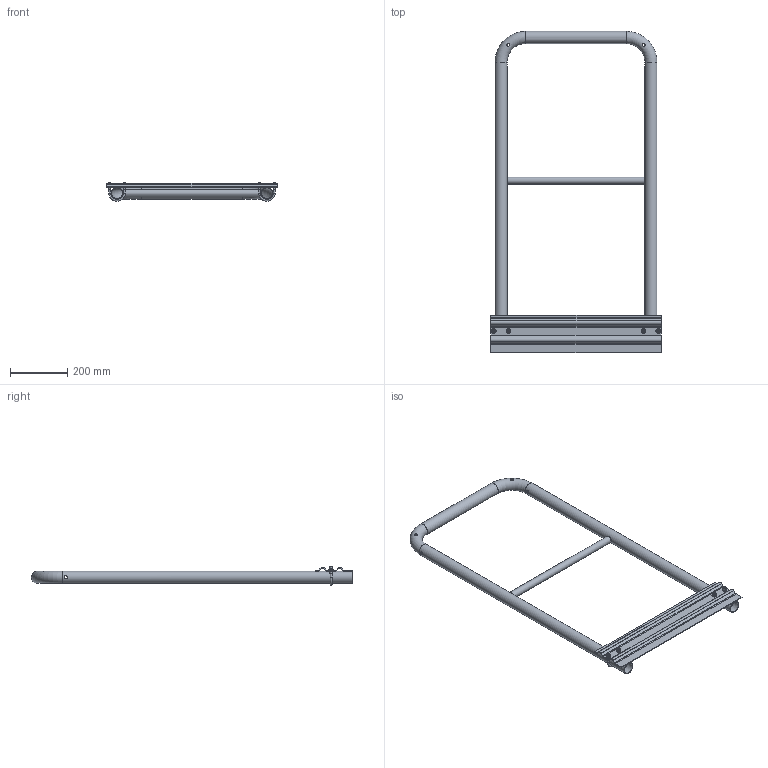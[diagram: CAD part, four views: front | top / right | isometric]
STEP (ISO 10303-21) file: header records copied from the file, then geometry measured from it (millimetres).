
FILE_DESCRIPTION((''),'2;1');
FILE_NAME('S:\Användarkataloger\AndreasA\Mina Inventor filer\Räcken\STEP\modul_ind_slist_600-1100.stp','2010-09-07T13:21:14',('AndreasA'),(''),'Autodesk Inventor 2011','Autodesk Inventor 2011','');
FILE_SCHEMA(('AUTOMOTIVE_DESIGN { 1 0 10303 214 1 1 1 1 }'));
Length unit declared in the file: millimetre
Products named in the file (9): modul_ind_slist_600-1100; modul_ind_600-1100; handledare_modul_600-1100; mellanliggare_modul_600; sparklist_k130_modul_600; bygelskruv_U42_kpl; bygelskruv_U42; SS 3576 8; ISO 4032 M8
Assembly tree (11 placements, depth 3):
  modul_ind_slist_600-1100
    modul_ind_600-1100
      handledare_modul_600-1100
      mellanliggare_modul_600
    sparklist_k130_modul_600
    bygelskruv_U42_kpl  x2
      bygelskruv_U42
      SS 3576 8
      ISO 4032 M8
Bounding box: 596 x 1121.2 x 64.98 mm (x, y, z)
Volume: 973811.8 mm3; surface area: 930481.9 mm2
Topology: 13 solids, 13 shells, 148 faces, 350 edges, 224 vertices
Faces by surface type: plane 66, cylinder 52, cone 24, torus 6
Full cylindrical faces by diameter (mm): 6.647 x4, 7 x4, 8 x4, 8.4 x4, 10 x4, 11 x8, 16 x4, 21 x1, 25 x1, 38.4 x3, 42.4 x3
Entity records: 3275 total; most frequent: CARTESIAN_POINT 1136, DIRECTION 414, ORIENTED_EDGE 324, AXIS2_PLACEMENT_3D 174, EDGE_CURVE 162, EDGE_LOOP 158, VERTEX_POINT 128, FACE_OUTER_BOUND 86
